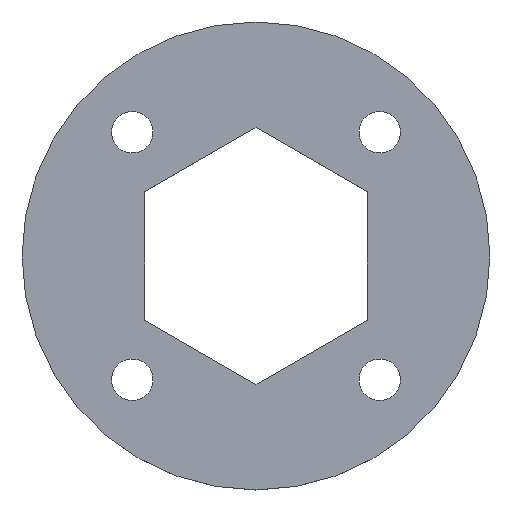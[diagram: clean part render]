
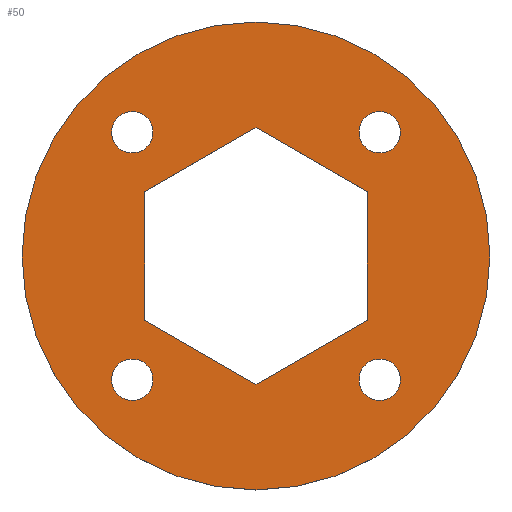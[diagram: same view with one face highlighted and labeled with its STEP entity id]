
A CAD part, top view. The second image highlights one B-rep face of the part: STEP entity #50.
In plain terms, the highlighted planar face has unit normal (0, 0, 1).
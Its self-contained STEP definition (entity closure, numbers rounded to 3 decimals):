
#21 = EDGE_CURVE('',#22,#22,#24,.T.);
#22 = VERTEX_POINT('',#23);
#23 = CARTESIAN_POINT('',(25.4,0.,6.));
#24 = CIRCLE('',#25,25.4);
#25 = AXIS2_PLACEMENT_3D('',#26,#27,#28);
#26 = CARTESIAN_POINT('',(0.,0.,6.));
#27 = DIRECTION('',(0.,0.,1.));
#28 = DIRECTION('',(1.,0.,0.));
#50 = ADVANCED_FACE('',(#51,#54,#65,#76,#87,#137),#148,.T.);
#51 = FACE_BOUND('',#52,.T.);
#52 = EDGE_LOOP('',(#53));
#53 = ORIENTED_EDGE('',*,*,#21,.T.);
#54 = FACE_BOUND('',#55,.T.);
#55 = EDGE_LOOP('',(#56));
#56 = ORIENTED_EDGE('',*,*,#57,.F.);
#57 = EDGE_CURVE('',#58,#58,#60,.T.);
#58 = VERTEX_POINT('',#59);
#59 = CARTESIAN_POINT('',(-11.185,-13.435,6.));
#60 = CIRCLE('',#61,2.25);
#61 = AXIS2_PLACEMENT_3D('',#62,#63,#64);
#62 = CARTESIAN_POINT('',(-13.435,-13.435,6.));
#63 = DIRECTION('',(0.,0.,1.));
#64 = DIRECTION('',(1.,0.,0.));
#65 = FACE_BOUND('',#66,.T.);
#66 = EDGE_LOOP('',(#67));
#67 = ORIENTED_EDGE('',*,*,#68,.F.);
#68 = EDGE_CURVE('',#69,#69,#71,.T.);
#69 = VERTEX_POINT('',#70);
#70 = CARTESIAN_POINT('',(15.685,-13.435,6.));
#71 = CIRCLE('',#72,2.25);
#72 = AXIS2_PLACEMENT_3D('',#73,#74,#75);
#73 = CARTESIAN_POINT('',(13.435,-13.435,6.));
#74 = DIRECTION('',(0.,0.,1.));
#75 = DIRECTION('',(1.,0.,0.));
#76 = FACE_BOUND('',#77,.T.);
#77 = EDGE_LOOP('',(#78));
#78 = ORIENTED_EDGE('',*,*,#79,.F.);
#79 = EDGE_CURVE('',#80,#80,#82,.T.);
#80 = VERTEX_POINT('',#81);
#81 = CARTESIAN_POINT('',(-11.185,13.435,6.));
#82 = CIRCLE('',#83,2.25);
#83 = AXIS2_PLACEMENT_3D('',#84,#85,#86);
#84 = CARTESIAN_POINT('',(-13.435,13.435,6.));
#85 = DIRECTION('',(0.,0.,1.));
#86 = DIRECTION('',(1.,0.,0.));
#87 = FACE_BOUND('',#88,.T.);
#88 = EDGE_LOOP('',(#89,#99,#107,#115,#123,#131));
#89 = ORIENTED_EDGE('',*,*,#90,.T.);
#90 = EDGE_CURVE('',#91,#93,#95,.T.);
#91 = VERTEX_POINT('',#92);
#92 = CARTESIAN_POINT('',(-12.075,6.972,6.));
#93 = VERTEX_POINT('',#94);
#94 = CARTESIAN_POINT('',(0.,13.943,6.));
#95 = LINE('',#96,#97);
#96 = CARTESIAN_POINT('',(-3.019,12.2,6.));
#97 = VECTOR('',#98,1.);
#98 = DIRECTION('',(0.866,0.5,0.));
#99 = ORIENTED_EDGE('',*,*,#100,.T.);
#100 = EDGE_CURVE('',#93,#101,#103,.T.);
#101 = VERTEX_POINT('',#102);
#102 = CARTESIAN_POINT('',(12.075,6.972,6.));
#103 = LINE('',#104,#105);
#104 = CARTESIAN_POINT('',(9.056,8.714,6.));
#105 = VECTOR('',#106,1.);
#106 = DIRECTION('',(0.866,-0.5,0.));
#107 = ORIENTED_EDGE('',*,*,#108,.T.);
#108 = EDGE_CURVE('',#101,#109,#111,.T.);
#109 = VERTEX_POINT('',#110);
#110 = CARTESIAN_POINT('',(12.075,-6.972,6.));
#111 = LINE('',#112,#113);
#112 = CARTESIAN_POINT('',(12.075,-3.486,6.));
#113 = VECTOR('',#114,1.);
#114 = DIRECTION('',(0.,-1.,0.));
#115 = ORIENTED_EDGE('',*,*,#116,.T.);
#116 = EDGE_CURVE('',#109,#117,#119,.T.);
#117 = VERTEX_POINT('',#118);
#118 = CARTESIAN_POINT('',(0.,-13.943,6.));
#119 = LINE('',#120,#121);
#120 = CARTESIAN_POINT('',(3.019,-12.2,6.));
#121 = VECTOR('',#122,1.);
#122 = DIRECTION('',(-0.866,-0.5,0.));
#123 = ORIENTED_EDGE('',*,*,#124,.T.);
#124 = EDGE_CURVE('',#117,#125,#127,.T.);
#125 = VERTEX_POINT('',#126);
#126 = CARTESIAN_POINT('',(-12.075,-6.972,6.));
#127 = LINE('',#128,#129);
#128 = CARTESIAN_POINT('',(-9.056,-8.714,6.));
#129 = VECTOR('',#130,1.);
#130 = DIRECTION('',(-0.866,0.5,0.));
#131 = ORIENTED_EDGE('',*,*,#132,.T.);
#132 = EDGE_CURVE('',#125,#91,#133,.T.);
#133 = LINE('',#134,#135);
#134 = CARTESIAN_POINT('',(-12.075,3.486,6.));
#135 = VECTOR('',#136,1.);
#136 = DIRECTION('',(0.,1.,0.));
#137 = FACE_BOUND('',#138,.T.);
#138 = EDGE_LOOP('',(#139));
#139 = ORIENTED_EDGE('',*,*,#140,.F.);
#140 = EDGE_CURVE('',#141,#141,#143,.T.);
#141 = VERTEX_POINT('',#142);
#142 = CARTESIAN_POINT('',(15.685,13.435,6.));
#143 = CIRCLE('',#144,2.25);
#144 = AXIS2_PLACEMENT_3D('',#145,#146,#147);
#145 = CARTESIAN_POINT('',(13.435,13.435,6.));
#146 = DIRECTION('',(0.,0.,1.));
#147 = DIRECTION('',(1.,0.,0.));
#148 = PLANE('',#149);
#149 = AXIS2_PLACEMENT_3D('',#150,#151,#152);
#150 = CARTESIAN_POINT('',(0.,0.,6.));
#151 = DIRECTION('',(0.,0.,1.));
#152 = DIRECTION('',(1.,0.,0.));
